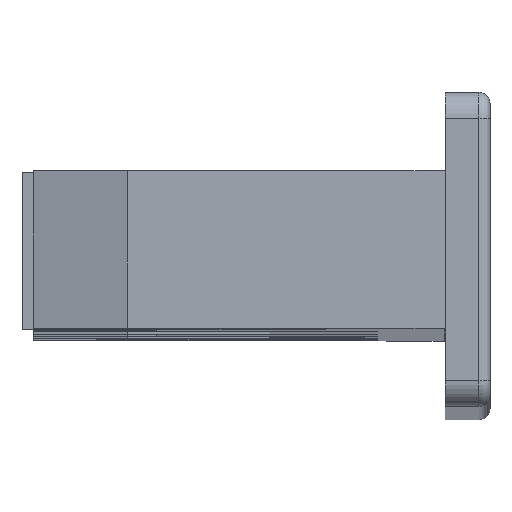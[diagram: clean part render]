
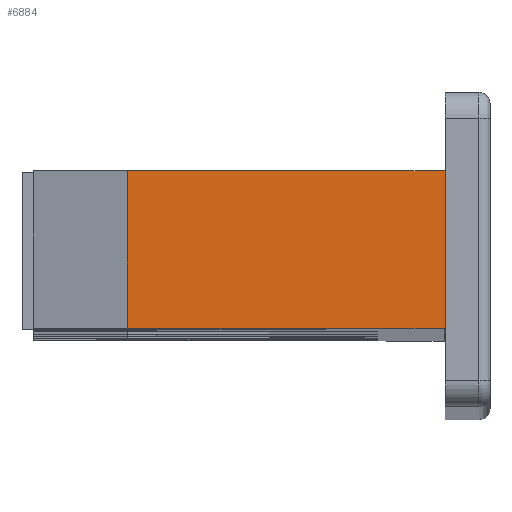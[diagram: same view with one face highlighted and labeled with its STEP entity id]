
A CAD part, top view. The second image highlights one B-rep face of the part: STEP entity #6884.
In plain terms, the highlighted planar face has unit normal (0, 0, 1).
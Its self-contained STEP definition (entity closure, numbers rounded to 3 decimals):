
#68 = CARTESIAN_POINT ( 'NONE',  ( -8., -30.512, 178.493 ) ) ;
#194 =( BOUNDED_CURVE ( )  B_SPLINE_CURVE ( 3, ( #2523, #5206, #3863, #7124 ),
 .UNSPECIFIED., .F., .T. ) 
 B_SPLINE_CURVE_WITH_KNOTS ( ( 4, 4 ),
 ( 4.712, 4.883 ),
 .UNSPECIFIED. ) 
 CURVE ( )  GEOMETRIC_REPRESENTATION_ITEM ( )  RATIONAL_B_SPLINE_CURVE ( ( 1., 0.998, 0.998, 1. ) ) 
 REPRESENTATION_ITEM ( '' )  );
#621 = VERTEX_POINT ( 'NONE', #5716 ) ;
#650 = CARTESIAN_POINT ( 'NONE',  ( -8.001, -31.489, 178.493 ) ) ;
#821 = DIRECTION ( 'NONE',  ( 0., 1., 0. ) ) ;
#843 = AXIS2_PLACEMENT_3D ( 'NONE', #1448, #8072, #2142 ) ;
#962 = ORIENTED_EDGE ( 'NONE', *, *, #5230, .T. ) ;
#1276 = CARTESIAN_POINT ( 'NONE',  ( -8.001, -31.491, 178.493 ) ) ;
#1299 = LINE ( 'NONE', #1337, #7592 ) ;
#1337 = CARTESIAN_POINT ( 'NONE',  ( -8., -33.59, 178.493 ) ) ;
#1448 = CARTESIAN_POINT ( 'NONE',  ( -8., -33.59, 178.493 ) ) ;
#1543 = VERTEX_POINT ( 'NONE', #4305 ) ;
#1611 = CARTESIAN_POINT ( 'NONE',  ( -8.001, -31.487, 178.493 ) ) ;
#1959 = VECTOR ( 'NONE', #5379, 1000. ) ;
#2142 = DIRECTION ( 'NONE',  ( 0., 1., 0. ) ) ;
#2268 = CARTESIAN_POINT ( 'NONE',  ( -8., -31.164, 178.493 ) ) ;
#2406 = VERTEX_POINT ( 'NONE', #3641 ) ;
#2455 = CARTESIAN_POINT ( 'NONE',  ( -8.001, -31.493, 178.493 ) ) ;
#2523 = CARTESIAN_POINT ( 'NONE',  ( -8., -32.468, 178.493 ) ) ;
#2547 = ORIENTED_EDGE ( 'NONE', *, *, #7467, .T. ) ;
#2735 = VERTEX_POINT ( 'NONE', #6374 ) ;
#2821 = DIRECTION ( 'NONE',  ( -1., 0., 0. ) ) ;
#3332 = VECTOR ( 'NONE', #821, 1000. ) ;
#3333 = EDGE_CURVE ( 'NONE', #621, #2735, #4185, .T. ) ;
#3515 = LINE ( 'NONE', #5459, #3332 ) ;
#3641 = CARTESIAN_POINT ( 'NONE',  ( -16.487, -29.39, 178.493 ) ) ;
#3863 = CARTESIAN_POINT ( 'NONE',  ( -8., -31.816, 178.493 ) ) ;
#4077 = EDGE_CURVE ( 'NONE', #4478, #7723, #3515, .T. ) ;
#4080 = DIRECTION ( 'NONE',  ( 0., 1., 0. ) ) ;
#4185 = LINE ( 'NONE', #6012, #1959 ) ;
#4240 = VERTEX_POINT ( 'NONE', #5729 ) ;
#4289 = EDGE_CURVE ( 'NONE', #621, #4240, #1299, .T. ) ;
#4305 = CARTESIAN_POINT ( 'NONE',  ( -8.001, -31.493, 178.493 ) ) ;
#4402 = CARTESIAN_POINT ( 'NONE',  ( -8., -30.839, 178.493 ) ) ;
#4478 = VERTEX_POINT ( 'NONE', #68 ) ;
#4703 = EDGE_CURVE ( 'NONE', #2735, #1543, #194, .T. ) ;
#4753 = PLANE ( 'NONE',  #843 ) ;
#4814 = CARTESIAN_POINT ( 'NONE',  ( -8., -29.39, 178.493 ) ) ;
#4866 = CARTESIAN_POINT ( 'NONE',  ( -8., -30.512, 178.493 ) ) ;
#5003 = CARTESIAN_POINT ( 'NONE',  ( -8., -29.39, 178.493 ) ) ;
#5004 = EDGE_LOOP ( 'NONE', ( #6809, #5781, #2547, #6604, #6867, #962, #5130, #7300 ) ) ;
#5130 = ORIENTED_EDGE ( 'NONE', *, *, #6733, .F. ) ;
#5206 = CARTESIAN_POINT ( 'NONE',  ( -8., -32.141, 178.493 ) ) ;
#5230 = EDGE_CURVE ( 'NONE', #7723, #2406, #5421, .T. ) ;
#5312 = B_SPLINE_CURVE_WITH_KNOTS ( 'NONE', 3,
 ( #2455, #1276, #650, #7140 ),
 .UNSPECIFIED., .F., .F.,
 ( 4, 4 ),
 ( 0., 0. ),
 .UNSPECIFIED. ) ;
#5379 = DIRECTION ( 'NONE',  ( 0., 1., 0. ) ) ;
#5421 = LINE ( 'NONE', #4814, #7462 ) ;
#5459 = CARTESIAN_POINT ( 'NONE',  ( -8., -33.59, 178.493 ) ) ;
#5716 = CARTESIAN_POINT ( 'NONE',  ( -8., -33.59, 178.493 ) ) ;
#5729 = CARTESIAN_POINT ( 'NONE',  ( -16.487, -33.59, 178.493 ) ) ;
#5781 = ORIENTED_EDGE ( 'NONE', *, *, #4703, .T. ) ;
#6012 = CARTESIAN_POINT ( 'NONE',  ( -8., -33.59, 178.493 ) ) ;
#6077 = VECTOR ( 'NONE', #4080, 1000. ) ;
#6217 =( BOUNDED_CURVE ( )  B_SPLINE_CURVE ( 3, ( #1611, #2268, #4402, #4866 ),
 .UNSPECIFIED., .F., .T. ) 
 B_SPLINE_CURVE_WITH_KNOTS ( ( 4, 4 ),
 ( 4.541, 4.712 ),
 .UNSPECIFIED. ) 
 CURVE ( )  GEOMETRIC_REPRESENTATION_ITEM ( )  RATIONAL_B_SPLINE_CURVE ( ( 1., 0.998, 0.998, 1. ) ) 
 REPRESENTATION_ITEM ( '' )  );
#6374 = CARTESIAN_POINT ( 'NONE',  ( -8., -32.468, 178.493 ) ) ;
#6604 = ORIENTED_EDGE ( 'NONE', *, *, #7685, .T. ) ;
#6733 = EDGE_CURVE ( 'NONE', #4240, #2406, #8000, .T. ) ;
#6809 = ORIENTED_EDGE ( 'NONE', *, *, #3333, .T. ) ;
#6867 = ORIENTED_EDGE ( 'NONE', *, *, #4077, .T. ) ;
#6884 = ADVANCED_FACE ( 'NONE', ( #8035 ), #4753, .F. ) ;
#7124 = CARTESIAN_POINT ( 'NONE',  ( -8.001, -31.493, 178.493 ) ) ;
#7140 = CARTESIAN_POINT ( 'NONE',  ( -8.001, -31.487, 178.493 ) ) ;
#7277 = DIRECTION ( 'NONE',  ( -1., 0., 0. ) ) ;
#7300 = ORIENTED_EDGE ( 'NONE', *, *, #4289, .F. ) ;
#7364 = CARTESIAN_POINT ( 'NONE',  ( -16.487, -33.59, 178.493 ) ) ;
#7462 = VECTOR ( 'NONE', #2821, 1000. ) ;
#7467 = EDGE_CURVE ( 'NONE', #1543, #7853, #5312, .T. ) ;
#7592 = VECTOR ( 'NONE', #7277, 1000. ) ;
#7685 = EDGE_CURVE ( 'NONE', #7853, #4478, #6217, .T. ) ;
#7723 = VERTEX_POINT ( 'NONE', #5003 ) ;
#7853 = VERTEX_POINT ( 'NONE', #8360 ) ;
#8000 = LINE ( 'NONE', #7364, #6077 ) ;
#8035 = FACE_OUTER_BOUND ( 'NONE', #5004, .T. ) ;
#8072 = DIRECTION ( 'NONE',  ( 0., 0., -1. ) ) ;
#8360 = CARTESIAN_POINT ( 'NONE',  ( -8.001, -31.487, 178.493 ) ) ;
